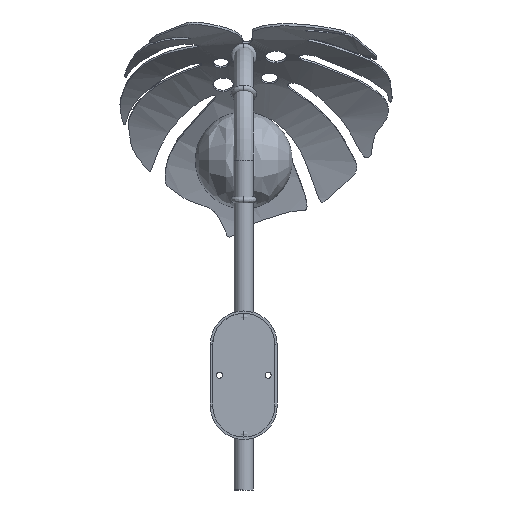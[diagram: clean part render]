
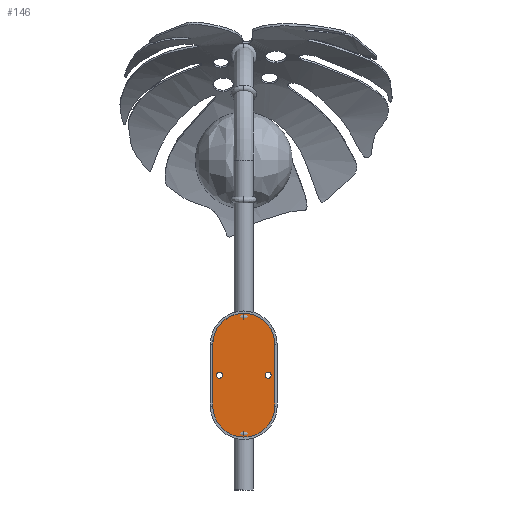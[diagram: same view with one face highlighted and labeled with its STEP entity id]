
A CAD part, left-side view. The second image highlights one B-rep face of the part: STEP entity #146.
In plain terms, the highlighted planar face has unit normal (-1, 0, 0).
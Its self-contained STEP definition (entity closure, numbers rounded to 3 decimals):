
#25=TRIMMED_CURVE($,#48,(#12490),(#12491),.T.,.CARTESIAN.);
#27=TRIMMED_CURVE($,#50,(#12508),(#12509),.T.,.CARTESIAN.);
#29=TRIMMED_CURVE($,#52,(#12529),(#12530),.T.,.CARTESIAN.);
#31=TRIMMED_CURVE($,#54,(#12537),(#12538),.T.,.CARTESIAN.);
#33=TRIMMED_CURVE($,#56,(#12545),(#12546),.T.,.CARTESIAN.);
#35=TRIMMED_CURVE($,#58,(#12553),(#12554),.T.,.CARTESIAN.);
#48=CIRCLE('',#828,25.586);
#50=CIRCLE('',#830,25.586);
#52=CIRCLE('',#832,2.5);
#54=CIRCLE('',#834,2.5);
#56=CIRCLE('',#836,2.5);
#58=CIRCLE('',#838,2.5);
#88=PLANE('',#815);
#146=ADVANCED_FACE('',(#205,#177,#178),#88,.T.);
#177=FACE_BOUND('',#263,.T.);
#178=FACE_BOUND('',#264,.T.);
#205=FACE_OUTER_BOUND('',#262,.T.);
#262=EDGE_LOOP('',(#406,#407,#408,#409));
#263=EDGE_LOOP('',(#410,#411));
#264=EDGE_LOOP('',(#412,#413));
#406=ORIENTED_EDGE('',*,*,#527,.T.);
#407=ORIENTED_EDGE('',*,*,#530,.T.);
#408=ORIENTED_EDGE('',*,*,#533,.T.);
#409=ORIENTED_EDGE('',*,*,#536,.T.);
#410=ORIENTED_EDGE('',*,*,#544,.T.);
#411=ORIENTED_EDGE('',*,*,#550,.T.);
#412=ORIENTED_EDGE('',*,*,#547,.T.);
#413=ORIENTED_EDGE('',*,*,#553,.T.);
#527=EDGE_CURVE('',#659,#660,#608,.T.);
#530=EDGE_CURVE('',#660,#662,#25,.T.);
#533=EDGE_CURVE('',#662,#664,#613,.T.);
#536=EDGE_CURVE('',#664,#659,#27,.T.);
#544=EDGE_CURVE('',#665,#668,#29,.T.);
#547=EDGE_CURVE('',#666,#670,#31,.T.);
#550=EDGE_CURVE('',#668,#665,#33,.T.);
#553=EDGE_CURVE('',#670,#666,#35,.T.);
#608=B_SPLINE_CURVE_WITH_KNOTS('',1,(#12479,#12480),.UNSPECIFIED.,.F.,.F.,
(2,2),(0.,50.9),.UNSPECIFIED.);
#613=B_SPLINE_CURVE_WITH_KNOTS('',1,(#12498,#12499),.UNSPECIFIED.,.F.,.F.,
(2,2),(0.,50.9),.UNSPECIFIED.);
#659=VERTEX_POINT('',#12437);
#660=VERTEX_POINT('',#12438);
#662=VERTEX_POINT('',#12440);
#664=VERTEX_POINT('',#12442);
#665=VERTEX_POINT('',#12443);
#666=VERTEX_POINT('',#12444);
#668=VERTEX_POINT('',#12446);
#670=VERTEX_POINT('',#12448);
#815=AXIS2_PLACEMENT_3D('',#12416,#869,$);
#828=AXIS2_PLACEMENT_3D($,#12489,#886,#887);
#830=AXIS2_PLACEMENT_3D($,#12507,#890,#891);
#832=AXIS2_PLACEMENT_3D($,#12528,#894,#895);
#834=AXIS2_PLACEMENT_3D($,#12536,#898,#899);
#836=AXIS2_PLACEMENT_3D($,#12544,#902,#903);
#838=AXIS2_PLACEMENT_3D($,#12552,#906,#907);
#869=DIRECTION('',(-1.,0.,0.));
#886=DIRECTION('',(-1.,0.,0.));
#887=DIRECTION('',(0.,-1.,0.));
#890=DIRECTION('',(-1.,0.,0.));
#891=DIRECTION('',(0.,1.,0.));
#894=DIRECTION('',(1.,0.,0.));
#895=DIRECTION('',(0.,-1.,0.));
#898=DIRECTION('',(1.,0.,0.));
#899=DIRECTION('',(0.,1.,0.));
#902=DIRECTION('',(1.,0.,0.));
#903=DIRECTION('',(0.,1.,0.));
#906=DIRECTION('',(1.,0.,0.));
#907=DIRECTION('',(0.,-1.,0.));
#12416=CARTESIAN_POINT('',(816.834,57.516,-30.425));
#12437=CARTESIAN_POINT('',(816.834,59.516,-108.911));
#12438=CARTESIAN_POINT('',(816.834,59.516,-58.01));
#12440=CARTESIAN_POINT('',(816.834,110.687,-58.01));
#12442=CARTESIAN_POINT('',(816.834,110.687,-108.911));
#12443=CARTESIAN_POINT('',(816.834,102.658,-83.46));
#12444=CARTESIAN_POINT('',(816.834,67.545,-83.46));
#12446=CARTESIAN_POINT('',(816.834,107.658,-83.46));
#12448=CARTESIAN_POINT('',(816.834,62.545,-83.46));
#12479=CARTESIAN_POINT('',(816.834,59.516,-108.911));
#12480=CARTESIAN_POINT('',(816.834,59.516,-58.01));
#12489=CARTESIAN_POINT('',(816.834,85.101,-58.01));
#12490=CARTESIAN_POINT('',(816.834,59.516,-58.01));
#12491=CARTESIAN_POINT('',(816.834,110.687,-58.01));
#12498=CARTESIAN_POINT('',(816.834,110.687,-58.01));
#12499=CARTESIAN_POINT('',(816.834,110.687,-108.911));
#12507=CARTESIAN_POINT('',(816.834,85.101,-108.911));
#12508=CARTESIAN_POINT('',(816.834,110.687,-108.911));
#12509=CARTESIAN_POINT('',(816.834,59.516,-108.911));
#12528=CARTESIAN_POINT('',(816.834,105.158,-83.46));
#12529=CARTESIAN_POINT('',(816.834,102.658,-83.46));
#12530=CARTESIAN_POINT('',(816.834,107.658,-83.46));
#12536=CARTESIAN_POINT('',(816.834,65.045,-83.46));
#12537=CARTESIAN_POINT('',(816.834,67.545,-83.46));
#12538=CARTESIAN_POINT('',(816.834,62.545,-83.46));
#12544=CARTESIAN_POINT('',(816.834,105.158,-83.46));
#12545=CARTESIAN_POINT('',(816.834,107.658,-83.46));
#12546=CARTESIAN_POINT('',(816.834,102.658,-83.46));
#12552=CARTESIAN_POINT('',(816.834,65.045,-83.46));
#12553=CARTESIAN_POINT('',(816.834,62.545,-83.46));
#12554=CARTESIAN_POINT('',(816.834,67.545,-83.46));
